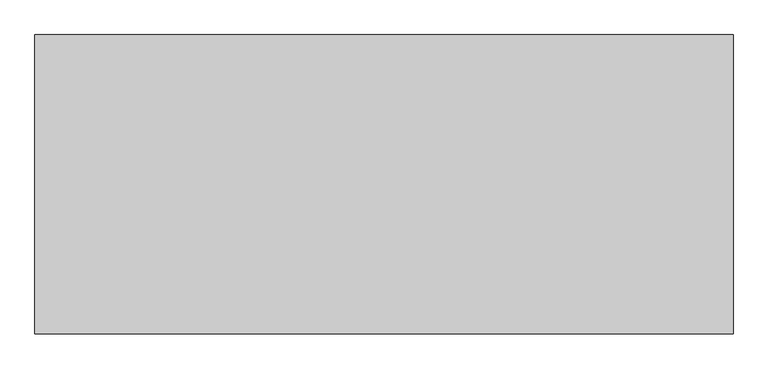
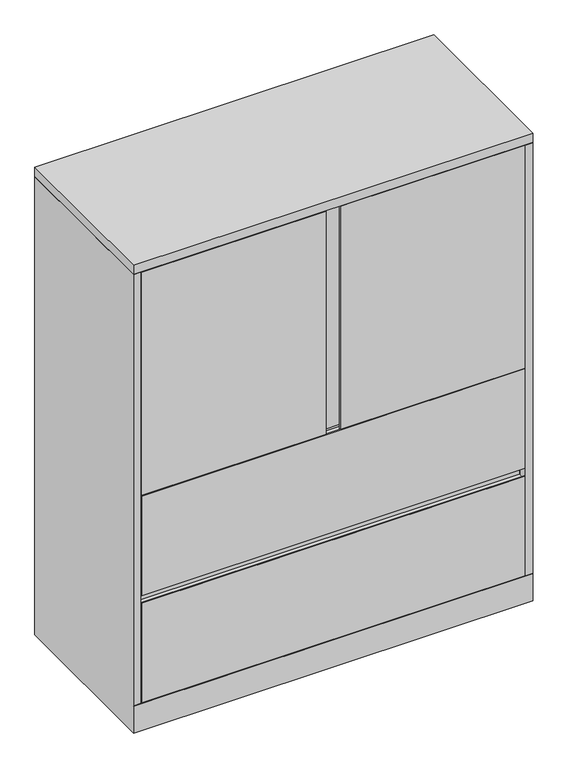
"""IFC4 building model written with IfcOpenShell, lengths in millimetres: furniture geometry, Steelcase - Universal Storage - Cabinet - Combination - Flush Steel : 52H - 2 Drawers - 18D x 42W."""

from ifc_helpers import new_model, si_unit, frame, origin, place, context, project, spatial, polyline, outline, extrude, faceted_brep, source, transform, mapped, element, save


def furniture_63710196(model_context):
    return source(origin(), model_context, "Body", "SolidModel", [
        extrude(outline(polyline([(21.8068168, -431.673866), (1045.972, -431.673866), (1045.972, -457.2), (552.45, -457.2), (552.45, -452.883482), (565.6189152, -452.883482), (565.6189152, -438.0238781), (514.35, -438.0238781), (514.35, -457.2), (21.8068168, -457.2), (21.8068168, -431.673866)])), frame((0.0, 0.0, 663.956), z_axis=(0.0, 0.0, 1.0), x_axis=(1.0, 0.0, 0.0)), (0.0, 0.0, 1.0), 629.92),
        extrude(outline(polyline([(1066.8, 0.0), (1066.8, -457.2), (0.0, -457.2), (0.0, 0.0), (1066.8, 0.0)])), frame((0.0, 0.0, 1295.3999516), z_axis=(0.0, 0.0, 1.0), x_axis=(1.0, 0.0, 0.0)), (0.0, 0.0, 1.0), 25.4000484),
        extrude(outline(polyline([(-457.2, 358.7750484), (-454.0242491, 358.7750484), (-454.0242491, 349.2500484), (-431.673866, 349.2500484), (-431.673866, 381.0), (-430.1498674, 381.0), (-430.1498674, 349.2500484), (-430.1498674, 77.724), (-457.2, 77.724), (-457.2, 358.7750484)])), frame((20.8280006, 0.0, 0.0), z_axis=(1.0, 0.0, 0.0), x_axis=(0.0, 1.0, 0.0)), (0.0, 0.0, 1.0), 1025.1439994),
        extrude(outline(polyline([(1041.4000242, -25.4000008), (1041.4000242, -430.1498674), (25.4000008, -430.1498674), (25.4000008, -25.4000008), (1041.4000242, -25.4000008)])), frame((0.0, 0.0, 965.3270484), z_axis=(0.0, 0.0, 1.0), x_axis=(1.0, 0.0, 0.0)), (0.0, 0.0, 1.0), 22.2249516),
        extrude(outline(polyline([(-457.2, 662.0510484), (-454.0242491, 662.0510484), (-454.0242491, 652.5260484), (-431.673866, 652.5260484), (-431.673866, 684.276), (-430.1498674, 684.276), (-430.1498674, 652.5260484), (-430.1498674, 381.0), (-457.2, 381.0), (-457.2, 662.0510484)])), frame((20.8280006, 0.0, 0.0), z_axis=(1.0, 0.0, 0.0), x_axis=(0.0, 1.0, 0.0)), (0.0, 0.0, 1.0), 1025.1439994),
        extrude(outline(polyline([(1041.4000242, -25.4000008), (1041.4000242, -430.1498674), (25.4000008, -430.1498674), (25.4000008, -25.4000008), (1041.4000242, -25.4000008)])), frame((0.0, 0.0, 662.0510484), z_axis=(0.0, 0.0, 1.0), x_axis=(1.0, 0.0, 0.0)), (0.0, 0.0, 1.0), 22.2249516),
        faceted_brep([(1066.8, 0.0, 0.0), (1066.8, -457.2, 0.0), (0.0, -457.2, 0.0), (0.0, 0.0, 0.0), (0.0, 0.0, 1293.876), (1066.8, 0.0, 1293.876), (0.0, -457.2, 76.2), (0.0, -457.2, 77.724), (0.0, -457.2, 1293.876), (1066.8, -457.2, 76.2), (1066.8, -457.2, 1293.876), (1066.8, -457.2, 77.724), (1041.4000242, -25.4000008, 1293.876), (1041.4000242, -430.1498674, 1293.876), (1045.972, -430.1498674, 1293.876), (1045.972, -431.6738781, 1293.876), (1047.496, -431.6738781, 1293.876), (1047.496, -457.2, 1293.876), (19.304, -457.2, 1293.876), (19.304, -431.673866, 1293.876), (20.8280006, -431.673866, 1293.876), (20.8280006, -430.1498674, 1293.876), (25.4000008, -430.1498674, 1293.876), (25.4000008, -25.4000008, 1293.876), (19.304, -457.2, 77.724), (19.304, -437.896, 77.724), (1047.496, -457.2, 77.724), (1047.496, -437.7698418, 77.724), (1041.4000242, -25.4000008, 77.724), (1041.4000242, -430.1498674, 77.724), (1045.972, -430.1498674, 77.724), (1045.972, -431.6738781, 77.724), (1047.496, -431.6738781, 77.724), (19.304, -431.673866, 77.724), (20.8280006, -431.673866, 77.724), (20.8280006, -430.1498674, 77.724), (25.4000008, -430.1498674, 77.724), (25.4000008, -25.4000008, 77.724), (25.526134, -431.673866, 77.724), (1041.4000242, -431.673866, 77.724)], [[[0, 1, 2, 3]], [[0, 3, 4, 5]], [[4, 3, 2, 6, 7, 8]], [[2, 1, 9, 6]], [[1, 0, 5, 10, 11, 9]], [[12, 13, 14, 15, 16, 17, 10, 5, 4, 8, 18, 19, 20, 21, 22, 23]], [[24, 7, 25]], [[11, 26, 27]], [[13, 12, 28, 29]], [[14, 13, 29, 30]], [[15, 14, 30, 31]], [[16, 15, 31, 32]], [[17, 16, 32, 27, 26]], [[10, 17, 26, 11]], [[18, 8, 7, 24]], [[19, 18, 24, 25, 33]], [[20, 19, 33, 34]], [[21, 20, 34, 35]], [[22, 21, 35, 36]], [[23, 22, 36, 37]], [[12, 23, 37, 28]], [[38, 39, 27, 32, 31, 30, 29, 28, 37, 36, 35, 34, 33, 25]], [[7, 6, 38, 25]], [[39, 38, 6, 9]], [[39, 9, 11, 27]]]),
    ])


if __name__ == "__main__":
    model = new_model("IFC4")
    model_context = context("Model", 3, world=origin())
    ifc_project = project(units=[si_unit("LENGTHUNIT", "METRE", prefix="MILLI")], contexts=[model_context])
    site = spatial("IfcSite", under=ifc_project)
    building = spatial("IfcBuilding", under=site)
    placement = place(None, origin())
    furniture_shape = furniture_63710196(model_context)
    element("IfcFurniture", 1, ObjectType="Steelcase - Universal Storage - Cabinet - Combination - Flush Steel : 52H - 2 Drawers - 18D x 42W", at=placement, inside=building, context=model_context, shape_type="MappedRepresentation", body=[
        mapped(furniture_shape, transform((0.0, 0.0, 0.0), x_axis=(1.0, 0.0, 0.0), y_axis=(0.0, 1.0, 0.0), z_axis=(0.0, 0.0, 1.0))),
    ])
    save(model, "model.ifc")
